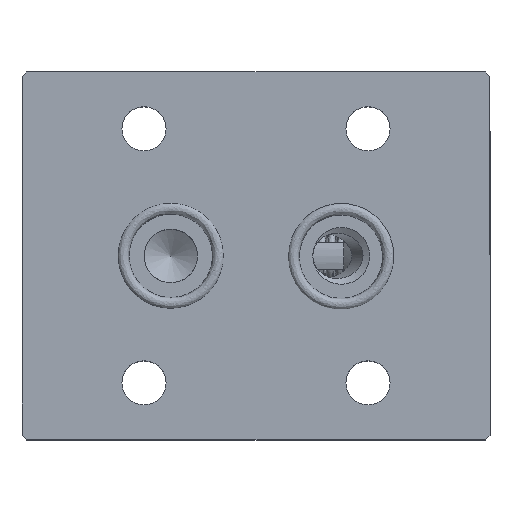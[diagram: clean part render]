
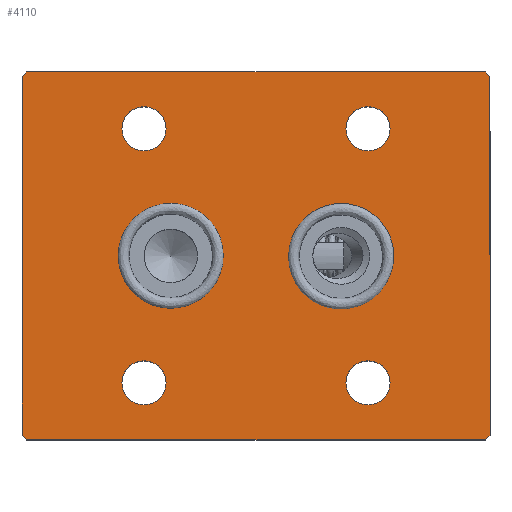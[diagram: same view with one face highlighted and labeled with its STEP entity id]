
A CAD part, top view. The second image highlights one B-rep face of the part: STEP entity #4110.
In plain terms, the highlighted planar face has unit normal (0, 0, 1).
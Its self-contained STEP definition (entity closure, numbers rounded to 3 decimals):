
#34 = CIRCLE ( 'NONE', #26089, 3.3 ) ;
#791 = CARTESIAN_POINT ( 'NONE',  ( 35., 26.8, 12.5 ) ) ;
#912 = CARTESIAN_POINT ( 'NONE',  ( -35., -26.8, 12.5 ) ) ;
#1182 = EDGE_LOOP ( 'NONE', ( #4554 ) ) ;
#1754 = DIRECTION ( 'NONE',  ( 1., 0., 0. ) ) ;
#1957 = DIRECTION ( 'NONE',  ( 0., 0., -1. ) ) ;
#2978 = EDGE_CURVE ( 'NONE', #4372, #4372, #34, .T. ) ;
#3059 = DIRECTION ( 'NONE',  ( 1., 0., 0. ) ) ;
#3083 = ORIENTED_EDGE ( 'NONE', *, *, #27064, .T. ) ;
#3106 = VERTEX_POINT ( 'NONE', #34722 ) ;
#3588 = DIRECTION ( 'NONE',  ( 0., 1., 0. ) ) ;
#3675 = VERTEX_POINT ( 'NONE', #35344 ) ;
#3700 = EDGE_LOOP ( 'NONE', ( #31664 ) ) ;
#3992 = CARTESIAN_POINT ( 'NONE',  ( 35., 27.5, 12.5 ) ) ;
#4110 = ADVANCED_FACE ( 'NONE', ( #29621, #32560, #4290, #13891, #16436, #13686, #29206 ), #29411, .T. ) ;
#4177 = VERTEX_POINT ( 'NONE', #14312 ) ;
#4290 = FACE_BOUND ( 'NONE', #38528, .T. ) ;
#4348 = EDGE_LOOP ( 'NONE', ( #19584, #28605, #39133, #36789, #27391, #5203, #20317, #3083 ) ) ;
#4372 = VERTEX_POINT ( 'NONE', #4579 ) ;
#4407 = DIRECTION ( 'NONE',  ( -1., 0., 0. ) ) ;
#4554 = ORIENTED_EDGE ( 'NONE', *, *, #24162, .F. ) ;
#4579 = CARTESIAN_POINT ( 'NONE',  ( 13.45, 19., 12.5 ) ) ;
#4676 = LINE ( 'NONE', #27492, #38411 ) ;
#4992 = DIRECTION ( 'NONE',  ( -0.707, 0.707, 0. ) ) ;
#5203 = ORIENTED_EDGE ( 'NONE', *, *, #20674, .T. ) ;
#5403 = AXIS2_PLACEMENT_3D ( 'NONE', #32971, #17051, #29819 ) ;
#6185 = EDGE_CURVE ( 'NONE', #14063, #35600, #39153, .T. ) ;
#6197 = CIRCLE ( 'NONE', #14845, 3.3 ) ;
#7206 = LINE ( 'NONE', #26046, #17845 ) ;
#7914 = CARTESIAN_POINT ( 'NONE',  ( -16.75, 19., 12.5 ) ) ;
#9015 = VECTOR ( 'NONE', #25000, 1000. ) ;
#9808 = VERTEX_POINT ( 'NONE', #912 ) ;
#11266 = DIRECTION ( 'NONE',  ( 1., 0., 0. ) ) ;
#12097 = CARTESIAN_POINT ( 'NONE',  ( 27.15, 34.65, 12.5 ) ) ;
#12135 = EDGE_CURVE ( 'NONE', #35600, #3675, #40787, .T. ) ;
#12605 = DIRECTION ( 'NONE',  ( -1., 0., 0. ) ) ;
#13133 = DIRECTION ( 'NONE',  ( -0.707, -0.707, 0. ) ) ;
#13686 = FACE_BOUND ( 'NONE', #3700, .T. ) ;
#13891 = FACE_BOUND ( 'NONE', #35301, .T. ) ;
#14063 = VERTEX_POINT ( 'NONE', #26896 ) ;
#14312 = CARTESIAN_POINT ( 'NONE',  ( -35., 26.8, 12.5 ) ) ;
#14845 = AXIS2_PLACEMENT_3D ( 'NONE', #7914, #20684, #33463 ) ;
#15623 = DIRECTION ( 'NONE',  ( 0., 0., 1. ) ) ;
#15762 = CARTESIAN_POINT ( 'NONE',  ( -35., 27.5, 12.5 ) ) ;
#15965 = LINE ( 'NONE', #15762, #23120 ) ;
#16436 = FACE_OUTER_BOUND ( 'NONE', #4348, .T. ) ;
#16467 = CIRCLE ( 'NONE', #17155, 7.85 ) ;
#16836 = CARTESIAN_POINT ( 'NONE',  ( 13.45, -19., 12.5 ) ) ;
#17032 = CARTESIAN_POINT ( 'NONE',  ( -34.65, -27.15, 12.5 ) ) ;
#17051 = DIRECTION ( 'NONE',  ( 0., 0., 1. ) ) ;
#17155 = AXIS2_PLACEMENT_3D ( 'NONE', #18419, #24255, #11266 ) ;
#17376 = CARTESIAN_POINT ( 'NONE',  ( 16.75, 19., 12.5 ) ) ;
#17845 = VECTOR ( 'NONE', #36099, 1000. ) ;
#18419 = CARTESIAN_POINT ( 'NONE',  ( 12.75, 0., 12.5 ) ) ;
#18493 = CARTESIAN_POINT ( 'NONE',  ( -16.75, -19., 12.5 ) ) ;
#18751 = EDGE_CURVE ( 'NONE', #30322, #30322, #6197, .T. ) ;
#19007 = VERTEX_POINT ( 'NONE', #19765 ) ;
#19086 = DIRECTION ( 'NONE',  ( -1., 0., 0. ) ) ;
#19204 = CIRCLE ( 'NONE', #28560, 3.3 ) ;
#19441 = ORIENTED_EDGE ( 'NONE', *, *, #31383, .F. ) ;
#19584 = ORIENTED_EDGE ( 'NONE', *, *, #23221, .T. ) ;
#19683 = AXIS2_PLACEMENT_3D ( 'NONE', #31331, #15623, #3059 ) ;
#19765 = CARTESIAN_POINT ( 'NONE',  ( -4.9, 0., 12.5 ) ) ;
#19920 = CARTESIAN_POINT ( 'NONE',  ( -34.3, -27.5, 12.5 ) ) ;
#20317 = ORIENTED_EDGE ( 'NONE', *, *, #34787, .T. ) ;
#20674 = EDGE_CURVE ( 'NONE', #26916, #4177, #34957, .T. ) ;
#20684 = DIRECTION ( 'NONE',  ( 0., 0., -1. ) ) ;
#21067 = ORIENTED_EDGE ( 'NONE', *, *, #2978, .T. ) ;
#21090 = CARTESIAN_POINT ( 'NONE',  ( -34.3, 27.5, 12.5 ) ) ;
#21589 = CARTESIAN_POINT ( 'NONE',  ( 34.3, -27.5, 12.5 ) ) ;
#23089 = CIRCLE ( 'NONE', #33810, 3.3 ) ;
#23120 = VECTOR ( 'NONE', #12605, 1000. ) ;
#23221 = EDGE_CURVE ( 'NONE', #27400, #28888, #4676, .T. ) ;
#23458 = EDGE_LOOP ( 'NONE', ( #19441 ) ) ;
#24162 = EDGE_CURVE ( 'NONE', #19007, #19007, #40420, .T. ) ;
#24255 = DIRECTION ( 'NONE',  ( 0., 0., 1. ) ) ;
#25000 = DIRECTION ( 'NONE',  ( 0.707, 0.707, 0. ) ) ;
#25555 = EDGE_CURVE ( 'NONE', #28888, #14063, #33584, .T. ) ;
#25579 = VECTOR ( 'NONE', #13133, 1000. ) ;
#25763 = DIRECTION ( 'NONE',  ( 0., 0., -1. ) ) ;
#26046 = CARTESIAN_POINT ( 'NONE',  ( -35., 27.5, 12.5 ) ) ;
#26089 = AXIS2_PLACEMENT_3D ( 'NONE', #17376, #30566, #4407 ) ;
#26896 = CARTESIAN_POINT ( 'NONE',  ( 35., -26.8, 12.5 ) ) ;
#26916 = VERTEX_POINT ( 'NONE', #21090 ) ;
#27064 = EDGE_CURVE ( 'NONE', #9808, #27400, #39218, .T. ) ;
#27391 = ORIENTED_EDGE ( 'NONE', *, *, #32918, .T. ) ;
#27400 = VERTEX_POINT ( 'NONE', #19920 ) ;
#27492 = CARTESIAN_POINT ( 'NONE',  ( -35., -27.5, 12.5 ) ) ;
#27512 = CARTESIAN_POINT ( 'NONE',  ( -0.35, -62.15, 12.5 ) ) ;
#27816 = ORIENTED_EDGE ( 'NONE', *, *, #29611, .T. ) ;
#28088 = VECTOR ( 'NONE', #3588, 1000. ) ;
#28560 = AXIS2_PLACEMENT_3D ( 'NONE', #18493, #1957, #33986 ) ;
#28605 = ORIENTED_EDGE ( 'NONE', *, *, #25555, .T. ) ;
#28888 = VERTEX_POINT ( 'NONE', #21589 ) ;
#29206 = FACE_BOUND ( 'NONE', #40882, .T. ) ;
#29411 = PLANE ( 'NONE',  #5403 ) ;
#29611 = EDGE_CURVE ( 'NONE', #38066, #38066, #23089, .T. ) ;
#29621 = FACE_BOUND ( 'NONE', #23458, .T. ) ;
#29819 = DIRECTION ( 'NONE',  ( 1., 0., 0. ) ) ;
#30322 = VERTEX_POINT ( 'NONE', #36815 ) ;
#30566 = DIRECTION ( 'NONE',  ( 0., 0., -1. ) ) ;
#31331 = CARTESIAN_POINT ( 'NONE',  ( -12.75, 0., 12.5 ) ) ;
#31383 = EDGE_CURVE ( 'NONE', #3106, #3106, #16467, .T. ) ;
#31664 = ORIENTED_EDGE ( 'NONE', *, *, #32734, .T. ) ;
#32264 = CARTESIAN_POINT ( 'NONE',  ( 16.75, -19., 12.5 ) ) ;
#32335 = DIRECTION ( 'NONE',  ( 0.707, -0.707, 0. ) ) ;
#32560 = FACE_BOUND ( 'NONE', #1182, .T. ) ;
#32734 = EDGE_CURVE ( 'NONE', #35690, #35690, #19204, .T. ) ;
#32918 = EDGE_CURVE ( 'NONE', #3675, #26916, #15965, .T. ) ;
#32971 = CARTESIAN_POINT ( 'NONE',  ( -35., -27.5, 12.5 ) ) ;
#33463 = DIRECTION ( 'NONE',  ( -1., 0., 0. ) ) ;
#33584 = LINE ( 'NONE', #27512, #9015 ) ;
#33810 = AXIS2_PLACEMENT_3D ( 'NONE', #32264, #25763, #19086 ) ;
#33986 = DIRECTION ( 'NONE',  ( -1., 0., 0. ) ) ;
#34722 = CARTESIAN_POINT ( 'NONE',  ( 20.6, 0., 12.5 ) ) ;
#34787 = EDGE_CURVE ( 'NONE', #4177, #9808, #7206, .T. ) ;
#34957 = LINE ( 'NONE', #35358, #25579 ) ;
#35030 = VECTOR ( 'NONE', #32335, 1000. ) ;
#35301 = EDGE_LOOP ( 'NONE', ( #40984 ) ) ;
#35320 = VECTOR ( 'NONE', #4992, 1000. ) ;
#35344 = CARTESIAN_POINT ( 'NONE',  ( 34.3, 27.5, 12.5 ) ) ;
#35358 = CARTESIAN_POINT ( 'NONE',  ( -62.15, -0.35, 12.5 ) ) ;
#35600 = VERTEX_POINT ( 'NONE', #791 ) ;
#35690 = VERTEX_POINT ( 'NONE', #35889 ) ;
#35889 = CARTESIAN_POINT ( 'NONE',  ( -20.05, -19., 12.5 ) ) ;
#36099 = DIRECTION ( 'NONE',  ( 0., -1., 0. ) ) ;
#36789 = ORIENTED_EDGE ( 'NONE', *, *, #12135, .T. ) ;
#36815 = CARTESIAN_POINT ( 'NONE',  ( -20.05, 19., 12.5 ) ) ;
#38066 = VERTEX_POINT ( 'NONE', #16836 ) ;
#38411 = VECTOR ( 'NONE', #1754, 1000. ) ;
#38528 = EDGE_LOOP ( 'NONE', ( #21067 ) ) ;
#39133 = ORIENTED_EDGE ( 'NONE', *, *, #6185, .T. ) ;
#39153 = LINE ( 'NONE', #3992, #28088 ) ;
#39218 = LINE ( 'NONE', #17032, #35030 ) ;
#40420 = CIRCLE ( 'NONE', #19683, 7.85 ) ;
#40787 = LINE ( 'NONE', #12097, #35320 ) ;
#40882 = EDGE_LOOP ( 'NONE', ( #27816 ) ) ;
#40984 = ORIENTED_EDGE ( 'NONE', *, *, #18751, .T. ) ;
